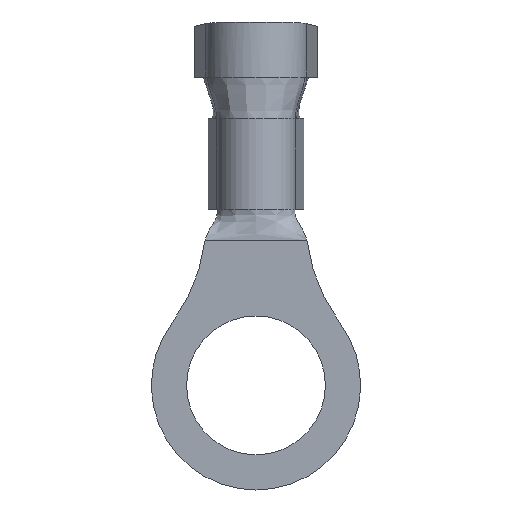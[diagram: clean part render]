
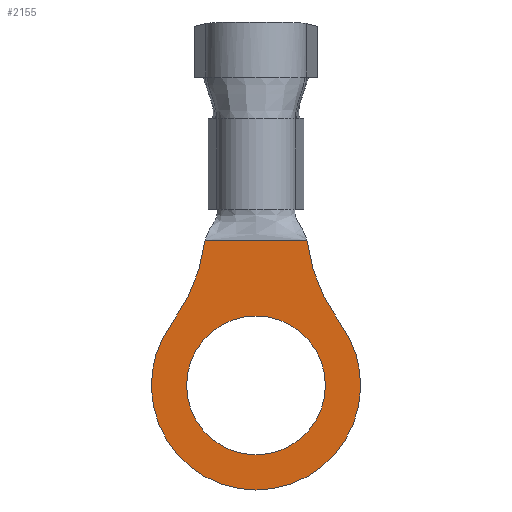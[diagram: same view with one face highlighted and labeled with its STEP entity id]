
A CAD part, front view. The second image highlights one B-rep face of the part: STEP entity #2155.
In plain terms, the highlighted planar face has unit normal (0, -1, 0).
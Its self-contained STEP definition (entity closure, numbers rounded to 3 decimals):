
#640=CARTESIAN_POINT('',(0.,-2.3,-14.));
#641=DIRECTION('',(0.,-1.,0.));
#642=DIRECTION('',(0.,0.,-1.));
#643=AXIS2_PLACEMENT_3D('',#640,#641,#642);
#645=CARTESIAN_POINT('',(0.,-2.3,-14.));
#646=DIRECTION('',(0.,-1.,0.));
#647=DIRECTION('',(0.,0.,1.));
#648=AXIS2_PLACEMENT_3D('',#645,#646,#647);
#650=CARTESIAN_POINT('',(10.25,-2.3,-6.417));
#651=DIRECTION('',(0.,-1.,0.));
#652=DIRECTION('',(-0.992,0.,-0.125));
#653=AXIS2_PLACEMENT_3D('',#650,#651,#652);
#655=CARTESIAN_POINT('',(0.,-2.3,-14.));
#656=DIRECTION('',(0.,1.,0.));
#657=DIRECTION('',(0.804,0.,0.595));
#658=AXIS2_PLACEMENT_3D('',#655,#656,#657);
#660=CARTESIAN_POINT('',(-10.25,-2.3,-6.417));
#661=DIRECTION('',(0.,-1.,0.));
#662=DIRECTION('',(0.804,0.,-0.595));
#663=AXIS2_PLACEMENT_3D('',#660,#661,#662);
#665=DIRECTION('',(1.,0.,0.));
#666=VECTOR('',#665,4.625);
#667=CARTESIAN_POINT('',(-2.313,-2.3,-7.417));
#668=LINE('',#667,#666);
#864=CARTESIAN_POINT('',(0.,-2.3,-17.15));
#865=CARTESIAN_POINT('',(0.,-2.3,-10.85));
#866=VERTEX_POINT('',#864);
#867=VERTEX_POINT('',#865);
#868=CARTESIAN_POINT('',(3.819,-2.3,-11.175));
#869=CARTESIAN_POINT('',(-3.819,-2.3,-11.175));
#870=VERTEX_POINT('',#868);
#871=VERTEX_POINT('',#869);
#880=CARTESIAN_POINT('',(2.313,-2.3,-7.417));
#881=VERTEX_POINT('',#880);
#882=CARTESIAN_POINT('',(-2.313,-2.3,-7.417));
#883=VERTEX_POINT('',#882);
#2136=CARTESIAN_POINT('',(0.,-2.3,-14.));
#2137=DIRECTION('',(0.,1.,0.));
#2138=DIRECTION('',(0.,0.,-1.));
#2139=AXIS2_PLACEMENT_3D('',#2136,#2137,#2138);
#2140=PLANE('',#2139);
#2142=ORIENTED_EDGE('',*,*,#2141,.T.);
#2144=ORIENTED_EDGE('',*,*,#2143,.T.);
#2145=ORIENTED_EDGE('',*,*,#2126,.T.);
#2146=ORIENTED_EDGE('',*,*,#1805,.T.);
#2147=EDGE_LOOP('',(#2142,#2144,#2145,#2146));
#2148=FACE_OUTER_BOUND('',#2147,.F.);
#2150=ORIENTED_EDGE('',*,*,#2149,.T.);
#2152=ORIENTED_EDGE('',*,*,#2151,.T.);
#2153=EDGE_LOOP('',(#2150,#2152));
#2154=FACE_BOUND('',#2153,.F.);
#2155=ADVANCED_FACE('',(#2148,#2154),#2140,.F.);
#644=CIRCLE('',#643,3.15);
#649=CIRCLE('',#648,3.15);
#654=CIRCLE('',#653,8.);
#659=CIRCLE('',#658,4.75);
#664=CIRCLE('',#663,8.);
#1805=EDGE_CURVE('',#883,#881,#668,.T.);
#2126=EDGE_CURVE('',#871,#883,#664,.T.);
#2141=EDGE_CURVE('',#881,#870,#654,.T.);
#2143=EDGE_CURVE('',#870,#871,#659,.T.);
#2149=EDGE_CURVE('',#866,#867,#644,.T.);
#2151=EDGE_CURVE('',#867,#866,#649,.T.);
